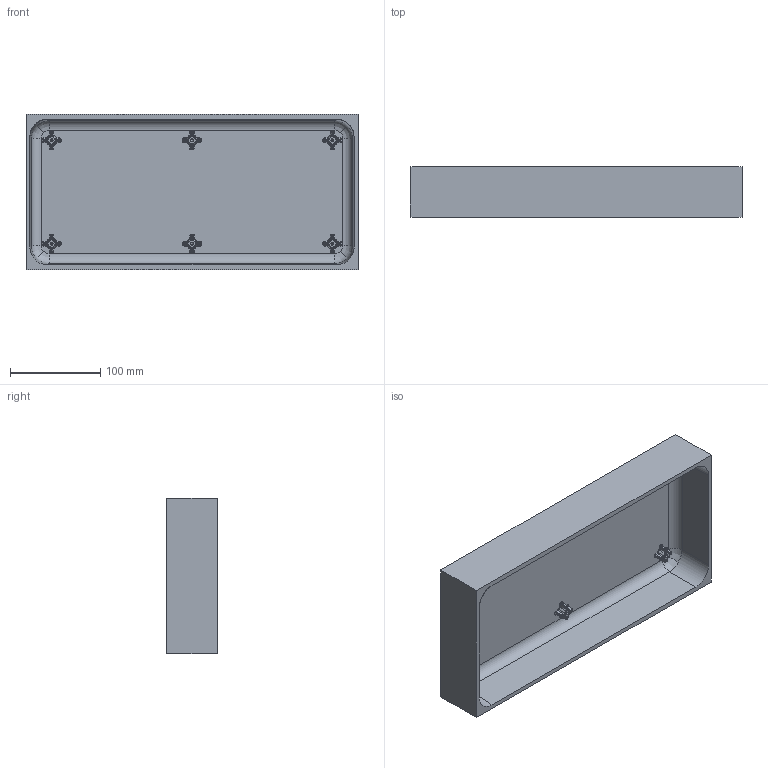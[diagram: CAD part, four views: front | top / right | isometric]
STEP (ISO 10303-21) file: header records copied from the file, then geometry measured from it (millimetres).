
FILE_DESCRIPTION (( 'STEP AP203' ), '1' );
FILE_NAME ('1430-CASE-TOP.STEP', '2006-01-25T18:30:59', ( ' ' ), ( ' ' ), 'SwSTEP 2.0', 'SolidWorks 2005143', '' );
FILE_SCHEMA (( 'CONFIG_CONTROL_DESIGN' ));
Products named in the file (1): 1430-CASE-TOP
Bounding box: 368.81 x 56.13 x 172.72 mm (x, y, z)
Volume: 731719 mm3; surface area: 272838.1 mm2
Topology: 3 solids, 3 shells, 800 faces, 1942 edges, 1100 vertices
Faces by surface type: bspline 366, cylinder 136, torus 124, plane 96, cone 78
Entity records: 145135 total; most frequent: CARTESIAN_POINT 129019, ORIENTED_EDGE 3764, DIRECTION 2682, EDGE_CURVE 1882, AXIS2_PLACEMENT_3D 1153, VERTEX_POINT 1100, EDGE_LOOP 814, FACE_OUTER_BOUND 800
